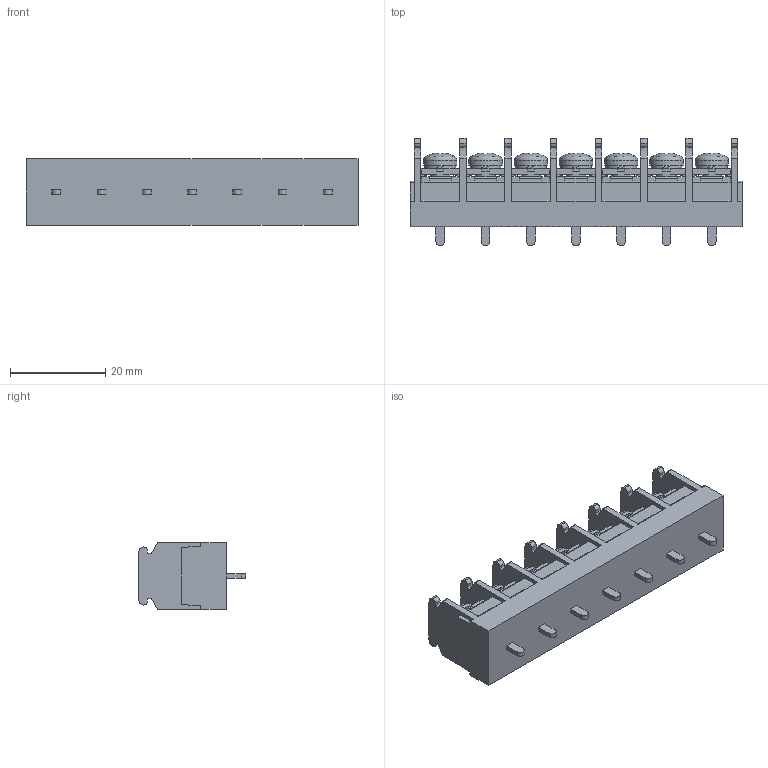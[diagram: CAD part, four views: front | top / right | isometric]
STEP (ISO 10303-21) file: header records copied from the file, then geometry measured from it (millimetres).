
FILE_DESCRIPTION(/* description */ ('Alibre Inc.'),/* implementation_level */ '2;1');
FILE_NAME(/* name */ 'export-FC8B9B2C-FDED-4C79-A44D-6A231603F39A',/* time_stamp */ '2021-02-13T14:00:49+09:00',/* author */ (''),/* organization */ (''),/* preprocessor_version */ 'ST-DEVELOPER v17',/* originating_system */ 'Alibre',/* authorisation */ '');
FILE_SCHEMA (('CONFIG_CONTROL_DESIGN'));
Length unit declared in the file: millimetre
Bounding box: 69.7 x 22.5 x 14 mm (x, y, z)
Volume: 11826.5 mm3; surface area: 8087.9 mm2
Topology: 1 solids, 24 shells, 1218 faces, 3401 edges, 2237 vertices
Faces by surface type: plane 902, cylinder 156, bspline 104, cone 35, torus 14, sphere 7
Full cylindrical faces by diameter (mm): 4 x14, 7 x7
Entity records: 37310 total; most frequent: CARTESIAN_POINT 7800, ORIENTED_EDGE 6690, DIRECTION 4797, EDGE_CURVE 3345, VECTOR 2447, LINE 2447, VERTEX_POINT 2223, AXIS2_PLACEMENT_3D 1602
